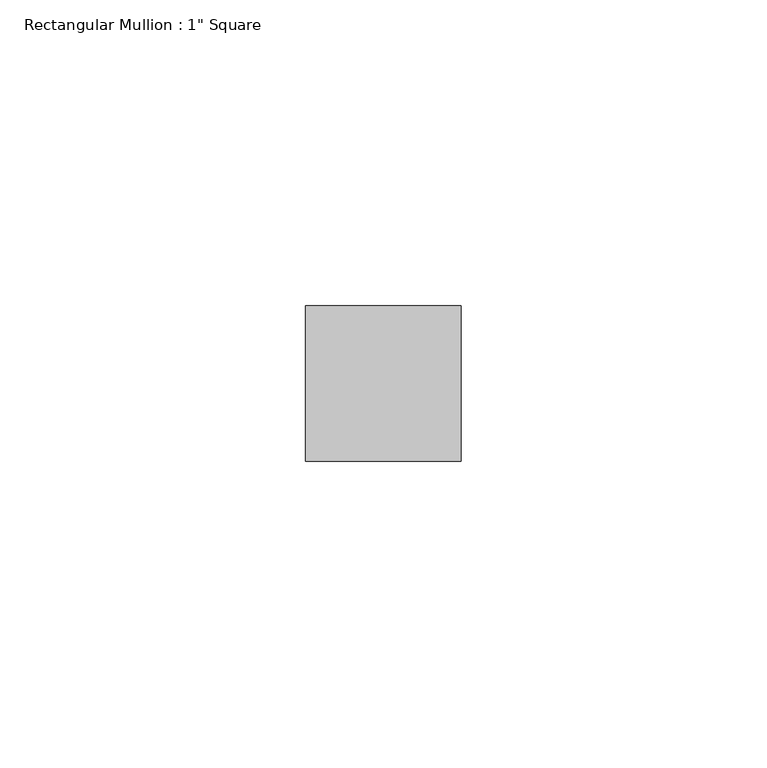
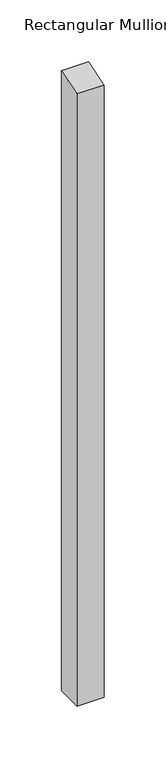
"""IFC4 building model written with IfcOpenShell, lengths in millimetres: member geometry."""

from ifc_helpers import new_model, si_unit, origin, place, context, project, spatial, faceted_brep, source, transform, mapped, element, save


def member_f8d2dede(model_context):
    return source(origin(), model_context, "Body", "Brep", [
        faceted_brep([(0.0, 12.7, -609.6), (0.0, -12.7, -609.6), (-25.4, -12.7, -609.6), (-25.4, 12.7, -609.6), (-25.4, 12.7, 3.978763), (0.0, 12.7, 3.7059304), (-25.4, -12.7, -3.4330978), (0.0, -12.7, -3.7059304)], [[[0, 1, 2, 3]], [[4, 5, 0, 3]], [[6, 4, 3, 2]], [[7, 6, 2, 1]], [[5, 7, 1, 0]], [[5, 4, 6, 7]]]),
    ])


if __name__ == "__main__":
    model = new_model("IFC4")
    model_context = context("Model", 3, world=origin())
    ifc_project = project(units=[si_unit("LENGTHUNIT", "METRE", prefix="MILLI")], contexts=[model_context])
    site = spatial("IfcSite", under=ifc_project)
    building = spatial("IfcBuilding", under=site)
    placement = place(None, origin())
    member_shape = member_f8d2dede(model_context)
    element("IfcMember", 1, ObjectType="Rectangular Mullion : 1\" Square", at=placement, inside=building, context=model_context, shape_type="MappedRepresentation", body=[
        mapped(member_shape, transform((0.0, 0.0, 0.0), x_axis=(1.0, 0.0, 0.0), y_axis=(0.0, 1.0, 0.0), z_axis=(0.0, 0.0, 1.0))),
    ])
    save(model, "model.ifc")
